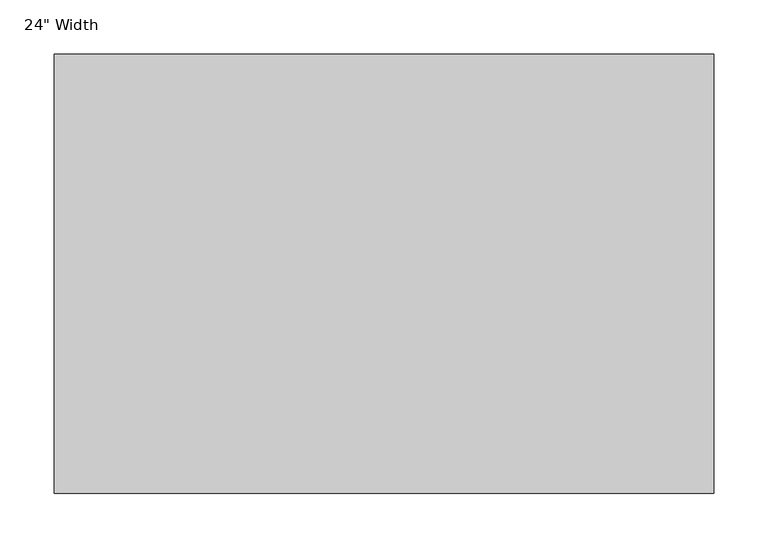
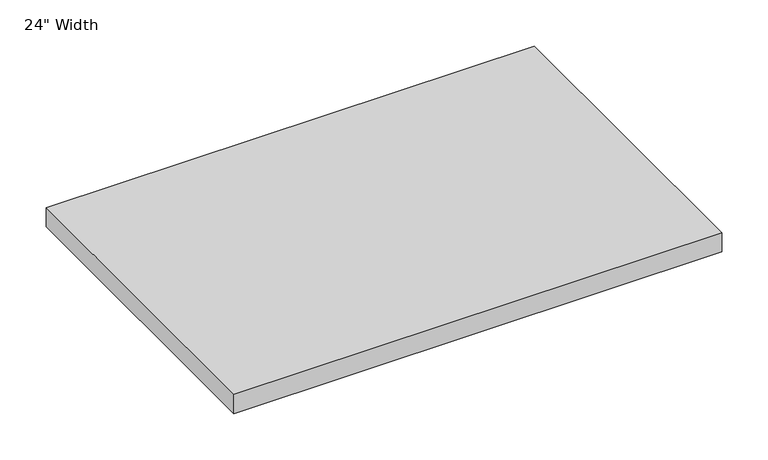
"""IFC4 building model written with IfcOpenShell, lengths in millimetres: furniture geometry."""

from ifc_helpers import new_model, si_unit, origin, origin_with_axes, place, context, project, spatial, polyline, outline, extrude, source, transform, mapped, element, save


def furniture_ea6b8f62(model_context):
    return source(origin(), model_context, "Body", "SweptSolid", [
        extrude(outline(polyline([(228.6, 29.2199219), (228.6, -377.1800781), (-381.0, -377.1800781), (-381.0, 29.2199219), (228.6, 29.2199219)])), origin_with_axes(), (0.0, 0.0, 1.0), 25.4),
    ])


if __name__ == "__main__":
    model = new_model("IFC4")
    model_context = context("Model", 3, world=origin())
    ifc_project = project(units=[si_unit("LENGTHUNIT", "METRE", prefix="MILLI")], contexts=[model_context])
    site = spatial("IfcSite", under=ifc_project)
    building = spatial("IfcBuilding", under=site)
    placement = place(None, origin())
    furniture_shape = furniture_ea6b8f62(model_context)
    element("IfcFurniture", 1, ObjectType="Furniture-Cabinet-Teknion-Altos_Landscape-Cushion-R2015 : 24\" Width", at=placement, inside=building, context=model_context, shape_type="MappedRepresentation", body=[
        mapped(furniture_shape, transform((0.0, 0.0, 0.0), x_axis=(1.0, 0.0, 0.0), y_axis=(0.0, 1.0, 0.0), z_axis=(0.0, 0.0, 1.0))),
    ])
    save(model, "model.ifc")
